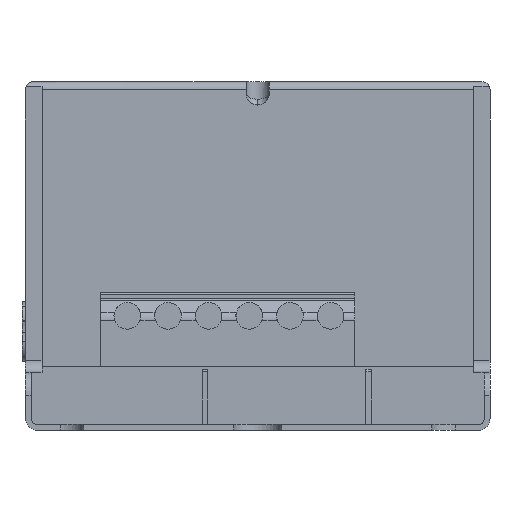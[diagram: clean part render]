
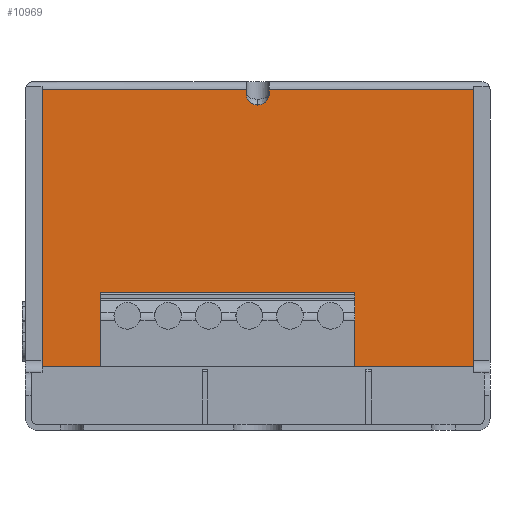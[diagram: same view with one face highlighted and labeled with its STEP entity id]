
A CAD part, front view. The second image highlights one B-rep face of the part: STEP entity #10969.
In plain terms, the highlighted planar face has unit normal (0, -1, 0).
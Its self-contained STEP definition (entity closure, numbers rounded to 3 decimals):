
#3827=DIRECTION('',(-1.,0.,0.));
#3828=VECTOR('',#3827,37.15);
#3829=CARTESIAN_POINT('',(18.575,-78.5,5.45));
#3830=LINE('',#3829,#3828);
#4724=DIRECTION('',(0.,0.,-1.));
#4725=VECTOR('',#4724,0.3);
#4726=CARTESIAN_POINT('',(-1.,-78.5,29.3));
#4727=LINE('',#4726,#4725);
#4731=CARTESIAN_POINT('',(0.,-78.5,29.));
#4732=DIRECTION('',(0.,-1.,0.));
#4733=DIRECTION('',(-1.,0.,0.));
#4734=AXIS2_PLACEMENT_3D('',#4731,#4732,#4733);
#4739=DIRECTION('',(0.,0.,-1.));
#4740=VECTOR('',#4739,0.3);
#4741=CARTESIAN_POINT('',(1.,-78.5,29.3));
#4742=LINE('',#4741,#4740);
#4746=DIRECTION('',(-1.,0.,0.));
#4747=VECTOR('',#4746,17.575);
#4748=CARTESIAN_POINT('',(18.575,-78.5,29.3));
#4749=LINE('',#4748,#4747);
#4753=DIRECTION('',(0.,0.,-1.));
#4754=VECTOR('',#4753,23.612);
#4755=CARTESIAN_POINT('',(18.575,-78.5,29.3));
#4756=LINE('',#4755,#4754);
#4760=DIRECTION('',(0.,0.,-1.));
#4761=VECTOR('',#4760,0.238);
#4762=CARTESIAN_POINT('',(18.575,-78.5,5.688));
#4763=LINE('',#4762,#4761);
#4767=DIRECTION('',(0.,0.,-1.));
#4768=VECTOR('',#4767,0.238);
#4769=CARTESIAN_POINT('',(-18.575,-78.5,5.688));
#4770=LINE('',#4769,#4768);
#4774=DIRECTION('',(0.,0.,-1.));
#4775=VECTOR('',#4774,23.612);
#4776=CARTESIAN_POINT('',(-18.575,-78.5,29.3));
#4777=LINE('',#4776,#4775);
#4781=DIRECTION('',(-1.,0.,0.));
#4782=VECTOR('',#4781,17.575);
#4783=CARTESIAN_POINT('',(-1.,-78.5,29.3));
#4784=LINE('',#4783,#4782);
#6836=CARTESIAN_POINT('',(18.575,-78.5,5.45));
#6837=CARTESIAN_POINT('',(-18.575,-78.5,5.45));
#6838=VERTEX_POINT('',#6836);
#6839=VERTEX_POINT('',#6837);
#6840=CARTESIAN_POINT('',(18.575,-78.5,5.688));
#6841=VERTEX_POINT('',#6840);
#6874=CARTESIAN_POINT('',(18.575,-78.5,29.3));
#6875=VERTEX_POINT('',#6874);
#6876=CARTESIAN_POINT('',(-18.575,-78.5,29.3));
#6877=CARTESIAN_POINT('',(-18.575,-78.5,5.688));
#6878=VERTEX_POINT('',#6876);
#6879=VERTEX_POINT('',#6877);
#6966=CARTESIAN_POINT('',(-1.,-78.5,29.));
#6967=VERTEX_POINT('',#6966);
#6968=CARTESIAN_POINT('',(1.,-78.5,29.));
#6969=VERTEX_POINT('',#6968);
#6994=CARTESIAN_POINT('',(1.,-78.5,29.3));
#6995=VERTEX_POINT('',#6994);
#6996=CARTESIAN_POINT('',(-1.,-78.5,29.3));
#6997=VERTEX_POINT('',#6996);
#10946=CARTESIAN_POINT('',(20.,-78.5,30.));
#10947=DIRECTION('',(0.,-1.,0.));
#10948=DIRECTION('',(0.,0.,-1.));
#10949=AXIS2_PLACEMENT_3D('',#10946,#10947,#10948);
#10950=PLANE('',#10949);
#10952=ORIENTED_EDGE('',*,*,#10951,.T.);
#10954=ORIENTED_EDGE('',*,*,#10953,.T.);
#10956=ORIENTED_EDGE('',*,*,#10955,.F.);
#10958=ORIENTED_EDGE('',*,*,#10957,.F.);
#10959=ORIENTED_EDGE('',*,*,#10911,.T.);
#10960=ORIENTED_EDGE('',*,*,#10941,.T.);
#10961=ORIENTED_EDGE('',*,*,#10281,.T.);
#10963=ORIENTED_EDGE('',*,*,#10962,.F.);
#10964=ORIENTED_EDGE('',*,*,#10262,.F.);
#10966=ORIENTED_EDGE('',*,*,#10965,.F.);
#10967=EDGE_LOOP('',(#10952,#10954,#10956,#10958,#10959,#10960,#10961,#10963,
#10964,#10966));
#10968=FACE_OUTER_BOUND('',#10967,.F.);
#4735=CIRCLE('',#4734,1.);
#10262=EDGE_CURVE('',#6878,#6879,#4777,.T.);
#10281=EDGE_CURVE('',#6838,#6839,#3830,.T.);
#10911=EDGE_CURVE('',#6875,#6841,#4756,.T.);
#10941=EDGE_CURVE('',#6841,#6838,#4763,.T.);
#10951=EDGE_CURVE('',#6997,#6967,#4727,.T.);
#10953=EDGE_CURVE('',#6967,#6969,#4735,.T.);
#10955=EDGE_CURVE('',#6995,#6969,#4742,.T.);
#10957=EDGE_CURVE('',#6875,#6995,#4749,.T.);
#10962=EDGE_CURVE('',#6879,#6839,#4770,.T.);
#10965=EDGE_CURVE('',#6997,#6878,#4784,.T.);
#10969=ADVANCED_FACE('',(#10968),#10950,.T.);
